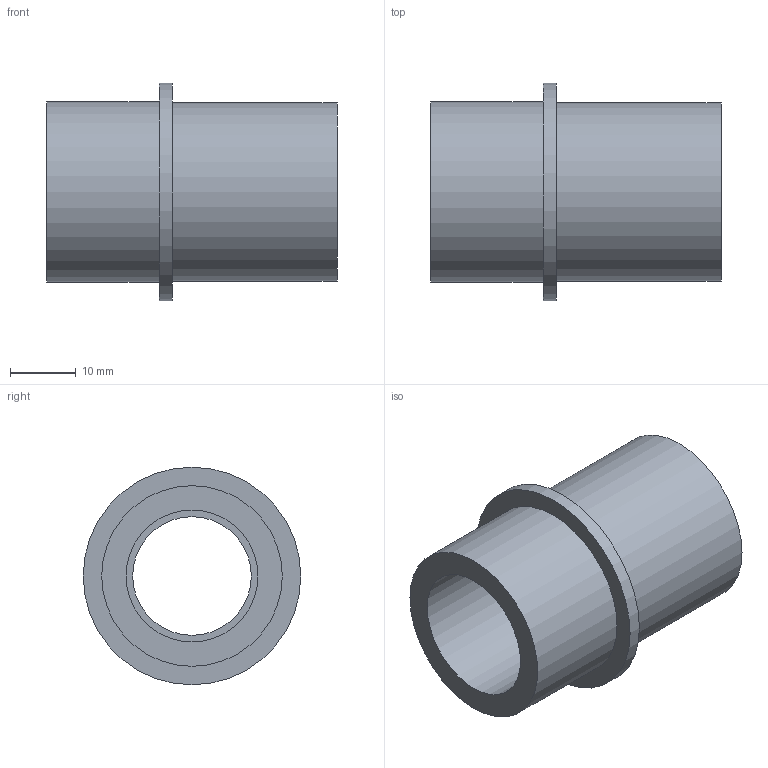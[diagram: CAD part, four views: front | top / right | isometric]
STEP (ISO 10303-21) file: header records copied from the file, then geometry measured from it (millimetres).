
FILE_DESCRIPTION(('Open CASCADE Model'),'2;1');
FILE_NAME('Open CASCADE Shape Model','2026-10-24T14:13:33',('Author'),( 'Open CASCADE'),'Open CASCADE STEP processor 7.9','Open CASCADE 7.9' ,'Unknown');
FILE_SCHEMA(('AUTOMOTIVE_DESIGN { 1 0 10303 214 1 1 1 1 }'));
Length unit declared in the file: millimetre
Products named in the file (1): Open CASCADE STEP translator 7.9 8
Bounding box: 44 x 33 x 33 mm (x, y, z)
Volume: 11744.8 mm3; surface area: 7801.5 mm2
Topology: 1 solids, 1 shells, 12 faces, 18 edges, 12 vertices
Faces by surface type: plane 6, cylinder 6
Full cylindrical faces by diameter (mm): 18 x1, 20 x1, 22 x1, 27 x1, 27.4 x1, 33 x1
Entity records: 522 total; most frequent: DIRECTION 92, CARTESIAN_POINT 79, ORIENTED_EDGE 36, PCURVE 36, DEFINITIONAL_REPRESENTATION 36, LINE 30, VECTOR 30, AXIS2_PLACEMENT_3D 25
